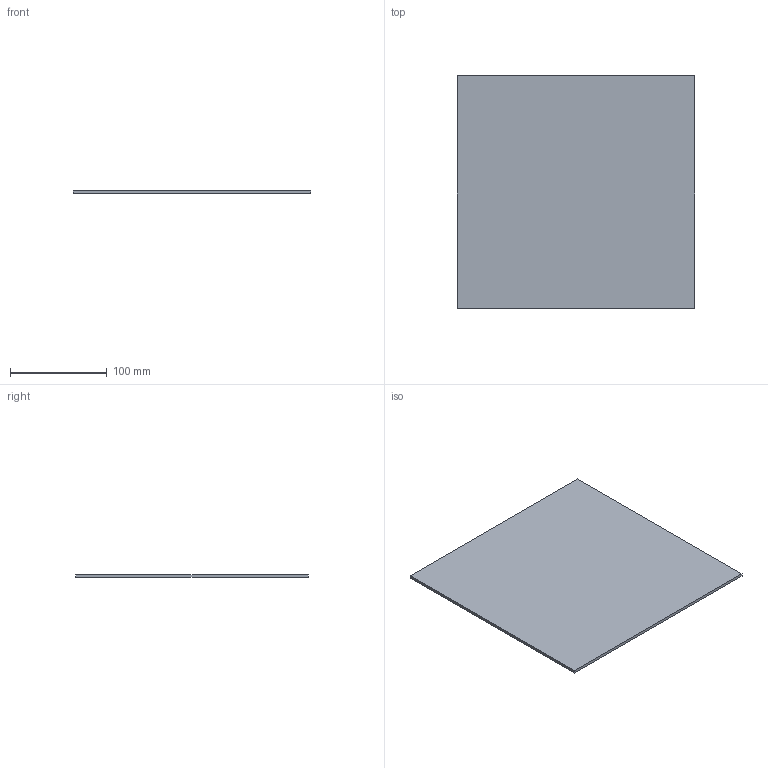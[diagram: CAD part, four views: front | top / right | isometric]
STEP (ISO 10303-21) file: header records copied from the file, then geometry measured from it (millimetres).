
FILE_DESCRIPTION(('Open CASCADE Model'),'2;1');
FILE_NAME('Open CASCADE Shape Model','2026-10-04T02:31:48',('Author'),( 'Open CASCADE'),'Open CASCADE STEP processor 8.0','Open CASCADE 8.0' ,'Unknown');
FILE_SCHEMA(('AUTOMOTIVE_DESIGN { 1 0 10303 214 1 1 1 1 }'));
Length unit declared in the file: millimetre
Products named in the file (1): Open CASCADE STEP translator 8.0 423
Bounding box: 245 x 240 x 3 mm (x, y, z)
Volume: 176400 mm3; surface area: 120510 mm2
Topology: 1 solids, 1 shells, 6 faces, 12 edges, 8 vertices
Faces by surface type: plane 6
Entity records: 322 total; most frequent: CARTESIAN_POINT 51, DIRECTION 50, LINE 36, VECTOR 36, ORIENTED_EDGE 24, PCURVE 24, DEFINITIONAL_REPRESENTATION 24, EDGE_CURVE 12
